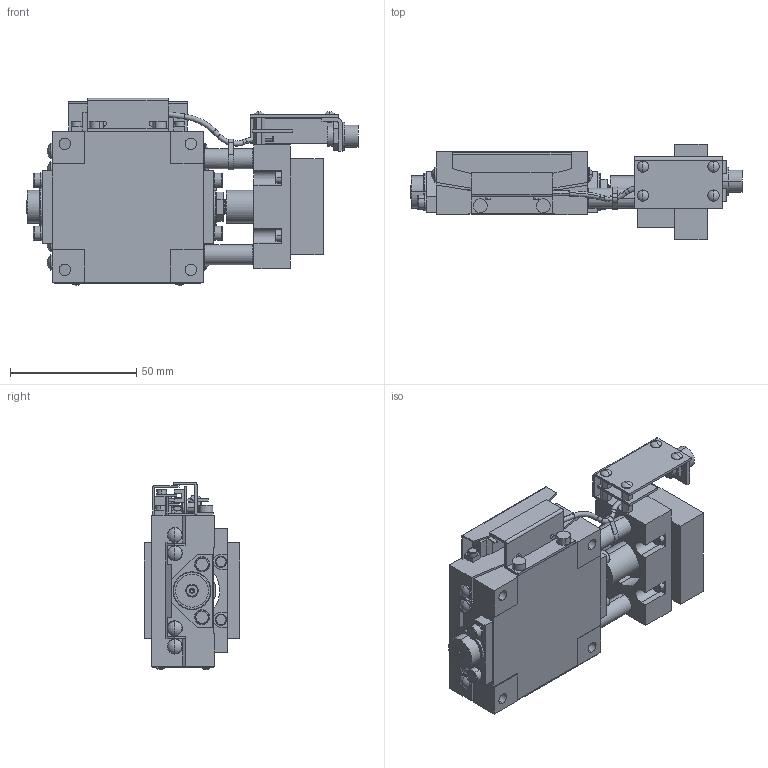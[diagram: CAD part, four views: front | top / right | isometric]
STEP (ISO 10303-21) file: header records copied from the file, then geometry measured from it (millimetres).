
FILE_DESCRIPTION (( 'STEP AP203' ), '1' );
FILE_NAME ('KGB06125MV-RS38.STEP', '2024-03-25T09:26:02', ( '' ), ( '' ), 'SwSTEP 2.0', 'SolidWorks 2017', '' );
FILE_SCHEMA (( 'CONFIG_CONTROL_DESIGN' ));
Length unit declared in the file: millimetre
Products named in the file (6): 60-M-6-R; KGB-TOP-06125-R; 60-S38_C; KGB-60-S38_CADENAS; KGB06125MV-RS38; KGB-BASE-06125-R
Assembly tree (5 placements, depth 2):
  KGB06125MV-RS38
    KGB-BASE-06125-R
    KGB-TOP-06125-R
    KGB-60-S38_CADENAS
    60-M-6-R
    60-S38_C
Bounding box: 131.7 x 38 x 74.3 mm (x, y, z)
Volume: 126425.1 mm3; surface area: 50324.1 mm2
Topology: 5 solids, 39 shells, 971 faces, 2293 edges, 1469 vertices
Faces by surface type: plane 394, cylinder 393, cone 96, torus 44, sphere 36, bspline 8
Entity records: 29413 total; most frequent: CARTESIAN_POINT 5587, DIRECTION 5213, ORIENTED_EDGE 4514, EDGE_CURVE 2257, AXIS2_PLACEMENT_3D 2027, VERTEX_POINT 1469, VECTOR 1159, LINE 1159
